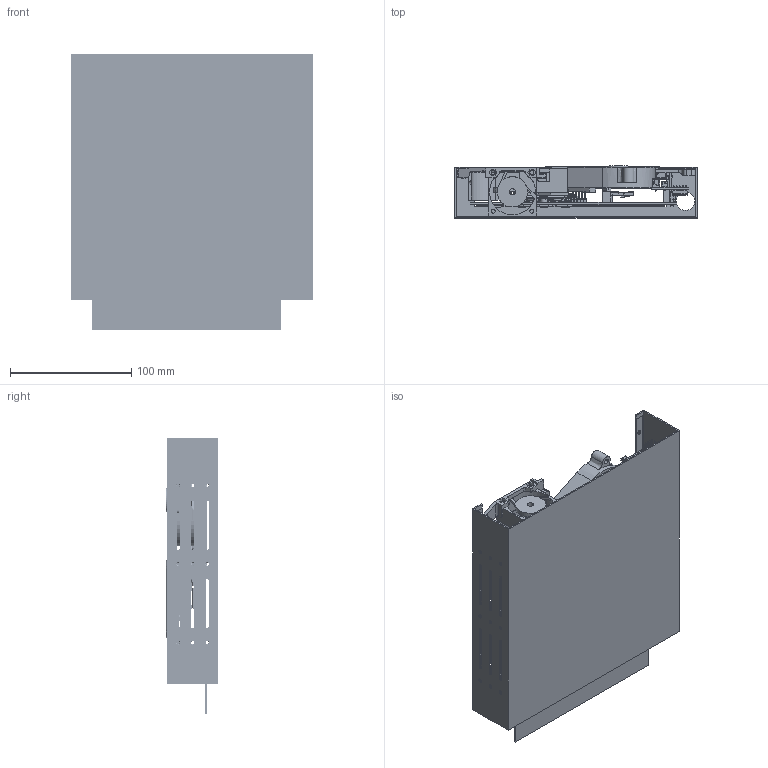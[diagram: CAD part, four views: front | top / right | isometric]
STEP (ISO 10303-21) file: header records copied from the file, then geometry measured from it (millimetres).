
FILE_DESCRIPTION (( 'STEP AP214' ), '1' );
FILE_NAME ('TC920 ASM.STEP', '2026-09-02T10:13:04', ( 'telsauser' ), ( ' ' ), 'SwSTEP 2.0', 'SolidWorks 2024', '' );
FILE_SCHEMA (( 'AUTOMOTIVE_DESIGN' ));
Length unit declared in the file: millimetre
Products named in the file (32): Pin Header 2x5 TH Pitch 2.54mm-2; PRT0007; 2.5 HDD; 1hf-V1.0-p1; 3D drawing_PT44A68-6401; PRT0008; fan18mm; ld1507-s52_asm; ayda heat; pc open box; Pin Header 2x5 TH Pitch 2.54mm-1; PT44P18-6401; 4x4 fan; SRV_TORX_SCREW; heat sink 45 cover; FRAME_INSULATOR_-_080304_-_HVM; TC920 ASM; COVER; dh61agl; SRV_SHOULDER_SCREW; heat sink 45 stand; Pin Header 2x5 TH Pitch 2.54mm-3; 2.5 HDD-asm; TC_MB_1_12; 1155HOUSING; K3D-MM80-204B1-E1R JAE; fan4x4-v3; FRAME_-_080304_-_HVM; TC_HDD_SATA_v1_3; hdd sata; 1hf-V1.0-p2
Assembly tree (33 placements, depth 4):
  TC920 ASM
    pc open box
    dh61agl
      dh61agl
      ld1507-s52_asm  x2
      K3D-MM80-204B1-E1R JAE
      3D drawing_PT44A68-6401
        FRAME_-_080304_-_HVM
        FRAME_INSULATOR_-_080304_-_HVM
        PRT0007
        PRT0008
        PT44P18-6401
        SRV_SHOULDER_SCREW
        SRV_TORX_SCREW  x2
        COVER
        1155HOUSING
      Pin Header 2x5 TH Pitch 2.54mm-2
      Pin Header 2x5 TH Pitch 2.54mm-1
      Pin Header 2x5 TH Pitch 2.54mm-3
    fan4x4-v3
    heat sink 45 cover
    heat sink 45 stand
    ayda heat
    fan18mm
    4x4 fan
    2.5 HDD-asm
      2.5 HDD
      hdd sata
    TC_HDD_SATA_v1_3
    TC_MB_1_12
    1hf-V1.0-p1
    1hf-V1.0-p2
Bounding box: 200.03 x 42.7 x 228.6 mm (x, y, z)
Volume: 283904.1 mm3; surface area: 368807.4 mm2
Topology: 102 solids, 137 shells, 10405 faces, 28249 edges, 18413 vertices
Faces by surface type: plane 8093, cylinder 1812, bspline 363, cone 74, torus 43, sphere 20
Entity records: 308762 total; most frequent: CARTESIAN_POINT 66290, ORIENTED_EDGE 51954, DIRECTION 46192, EDGE_CURVE 25997, LINE 21548, VECTOR 21548, VERTEX_POINT 16988, AXIS2_PLACEMENT_3D 12322
